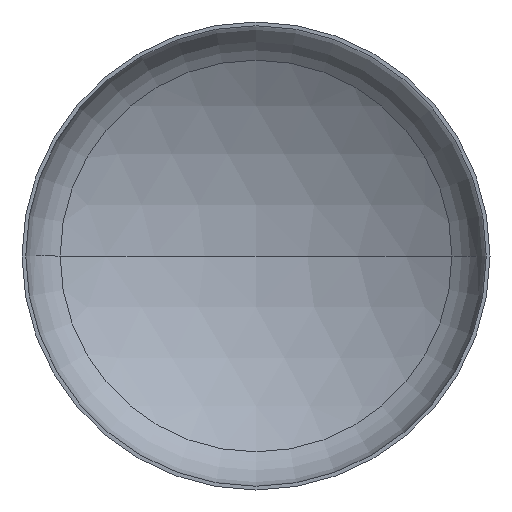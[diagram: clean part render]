
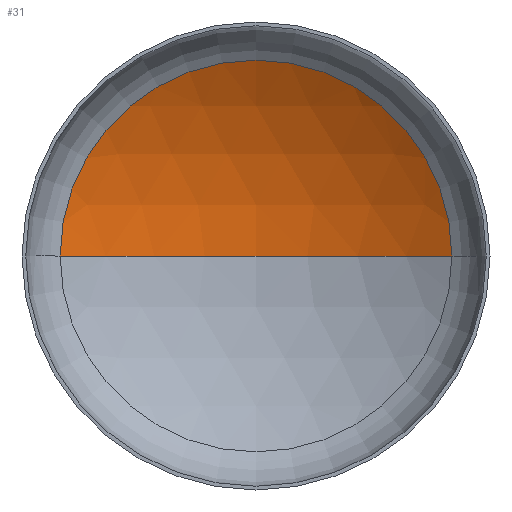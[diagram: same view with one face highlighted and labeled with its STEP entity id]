
A CAD part, front view. The second image highlights one B-rep face of the part: STEP entity #31.
In plain terms, the highlighted spherical face has radius 5600 mm.
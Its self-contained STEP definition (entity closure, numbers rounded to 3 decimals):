
#9 = VERTEX_POINT ( 'NONE', #250 ) ;
#31 = ADVANCED_FACE ( 'NONE', ( #360 ), #301, .F. ) ;
#38 = AXIS2_PLACEMENT_3D ( 'NONE', #204, #192, #193 ) ;
#40 = AXIS2_PLACEMENT_3D ( 'NONE', #296, #294, #293 ) ;
#42 = CARTESIAN_POINT ( 'NONE',  ( -2928.85, 1040.513, 0. ) ) ;
#43 = AXIS2_PLACEMENT_3D ( 'NONE', #288, #287, #159 ) ;
#62 = AXIS2_PLACEMENT_3D ( 'NONE', #247, #274, #273 ) ;
#83 = EDGE_CURVE ( 'NONE', #153, #218, #291, .T. ) ;
#84 = EDGE_CURVE ( 'NONE', #9, #153, #225, .T. ) ;
#88 = EDGE_CURVE ( 'NONE', #9, #218, #401, .T. ) ;
#98 = ORIENTED_EDGE ( 'NONE', *, *, #83, .T. ) ;
#111 = ORIENTED_EDGE ( 'NONE', *, *, #84, .T. ) ;
#153 = VERTEX_POINT ( 'NONE', #242 ) ;
#159 = DIRECTION ( 'NONE',  ( 1., 0., 0. ) ) ;
#189 = ORIENTED_EDGE ( 'NONE', *, *, #88, .F. ) ;
#192 = DIRECTION ( 'NONE',  ( 0., 0., 1. ) ) ;
#193 = DIRECTION ( 'NONE',  ( 1., 0., 0. ) ) ;
#201 = EDGE_LOOP ( 'NONE', ( #189, #111, #98 ) ) ;
#204 = CARTESIAN_POINT ( 'NONE',  ( 0., -3732.519, 0. ) ) ;
#218 = VERTEX_POINT ( 'NONE', #42 ) ;
#225 = CIRCLE ( 'NONE', #40, 5600. ) ;
#242 = CARTESIAN_POINT ( 'NONE',  ( 2928.85, 1040.513, 0. ) ) ;
#247 = CARTESIAN_POINT ( 'NONE',  ( 0., -3732.519, 0. ) ) ;
#250 = CARTESIAN_POINT ( 'NONE',  ( 0., 1867.481, 0. ) ) ;
#273 = DIRECTION ( 'NONE',  ( -1., 0., 0. ) ) ;
#274 = DIRECTION ( 'NONE',  ( 0., 0., -1. ) ) ;
#287 = DIRECTION ( 'NONE',  ( 0., -1., 0. ) ) ;
#288 = CARTESIAN_POINT ( 'NONE',  ( 0., 1040.513, 0. ) ) ;
#291 = CIRCLE ( 'NONE', #43, 2928.85 ) ;
#293 = DIRECTION ( 'NONE',  ( -1., 0., 0. ) ) ;
#294 = DIRECTION ( 'NONE',  ( 0., 0., -1. ) ) ;
#296 = CARTESIAN_POINT ( 'NONE',  ( 0., -3732.519, 0. ) ) ;
#301 = SPHERICAL_SURFACE ( 'NONE', #62, 5600. ) ;
#360 = FACE_OUTER_BOUND ( 'NONE', #201, .T. ) ;
#401 = CIRCLE ( 'NONE', #38, 5600. ) ;
